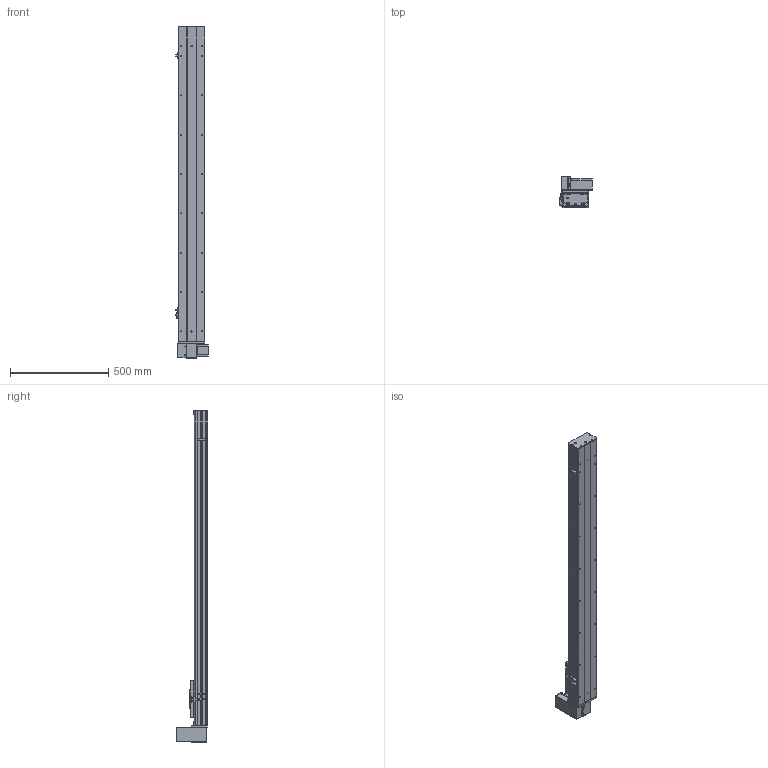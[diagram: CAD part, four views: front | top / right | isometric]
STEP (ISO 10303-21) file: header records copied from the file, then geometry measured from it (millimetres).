
FILE_DESCRIPTION (( 'STEP AP203' ), '1' );
FILE_NAME ('Y135CB-D90-S1300-UR-P400W.STEP', '2020-02-18T04:11:27', ( '微软用户' ), ( '微软中国' ), 'SwSTEP 2.0', 'SolidWorks 2017', '' );
FILE_SCHEMA (( 'CONFIG_CONTROL_DESIGN' ));
Length unit declared in the file: millimetre
Products named in the file (18): Y10B--々湍喘謫眊--666; san松下电机400不带刹车----; Y10B-耜蚾蟀諉啣----; 5CB --掛极耜裔啣-; 00B-俋欶BM--; C-詩湍揤踡え-陔; Y135CB-耜裔; Y135CB-D90-S1300-UR-P400W; 135CB--詩湍-CE; 135CB---遴掛极.-; Y100-135俋离換覜ん--; 35CB---喘謫眊楊擘啣; Y135C-陔俋离換覜結え-; 0B-埴倛裔啣; 5C--俋欶; 0B-源倛裔啣; C-雄赽釱--; 0B-萇儂楊擘啣
Assembly tree (21 placements, depth 2):
  Y135CB-D90-S1300-UR-P400W
    Y135CB-耜裔
    135CB---遴掛极.-
    35CB---喘謫眊楊擘啣
    0B-埴倛裔啣
    0B-源倛裔啣
    0B-萇儂楊擘啣
    san松下电机400不带刹车----
    5CB --掛极耜裔啣-  x2
    C-詩湍揤踡え-陔  x2
    135CB--詩湍-CE
    Y100-135俋离換覜ん--  x3
    Y135C-陔俋离換覜結え-
    5C--俋欶
    C-雄赽釱--
    Y10B--々湍喘謫眊--666
    Y10B-耜蚾蟀諉啣----
    00B-俋欶BM--
Bounding box: 167.5 x 158.7 x 1688 mm (x, y, z)
Volume: 5165412.2 mm3; surface area: 2029028.5 mm2
Topology: 21 solids, 21 shells, 953 faces, 2563 edges, 1698 vertices
Faces by surface type: cylinder 481, plane 456, cone 16
Entity records: 29753 total; most frequent: DIRECTION 4943, CARTESIAN_POINT 4900, ORIENTED_EDGE 4602, EDGE_CURVE 2301, AXIS2_PLACEMENT_3D 1805, VERTEX_POINT 1526, LINE 1333, VECTOR 1333
